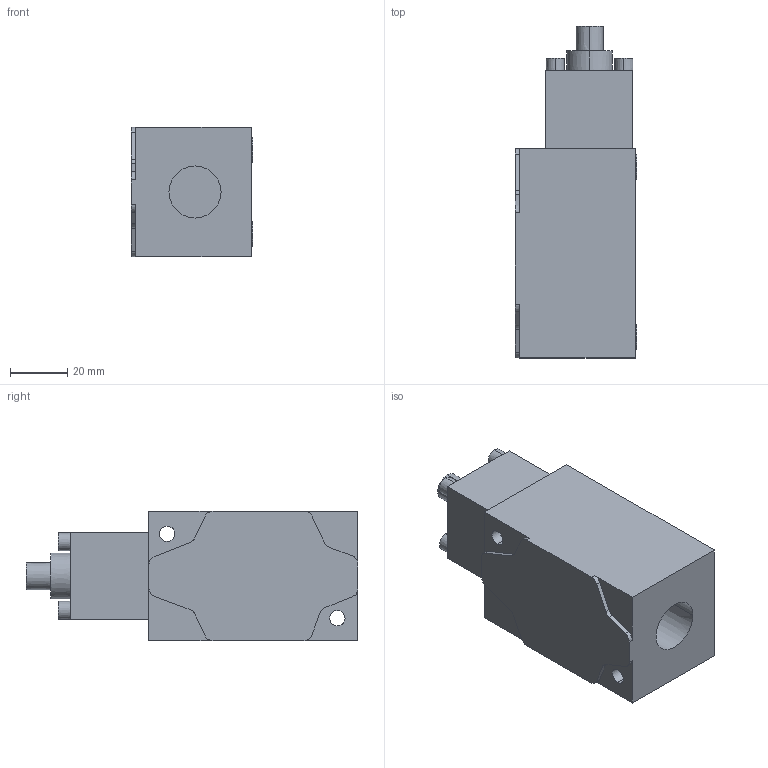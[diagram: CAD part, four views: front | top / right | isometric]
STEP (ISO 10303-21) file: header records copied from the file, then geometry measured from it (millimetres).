
FILE_DESCRIPTION((''),'2;1');
FILE_NAME('802T-B','2012-03-21T',('Administrator'),(''),'PRO/ENGINEER BY PARAMETRIC TECHNOLOGY CORPORATION, 2006010','PRO/ENGINEER BY PARAMETRIC TECHNOLOGY CORPORATION, 2006010','');
FILE_SCHEMA(('CONFIG_CONTROL_DESIGN'));
Length unit declared in the file: millimetre
Products named in the file (1): 802T-B
Bounding box: 42.5 x 115.9 x 45.21 mm (x, y, z)
Surface area: 24344.6 mm2 (no closed solid volume)
Topology: 0 solids, 0 shells, 80 faces, 554 edges, 692 vertices
Faces by surface type: bspline 80
Entity records: 8460 total; most frequent: CARTESIAN_POINT 4111, DIRECTION 810, TRIMMED_CURVE 660, VECTOR 512, LINE 512, DEFINITIONAL_REPRESENTATION 388, PCURVE 388, COMPOSITE_CURVE_SEGMENT 388
